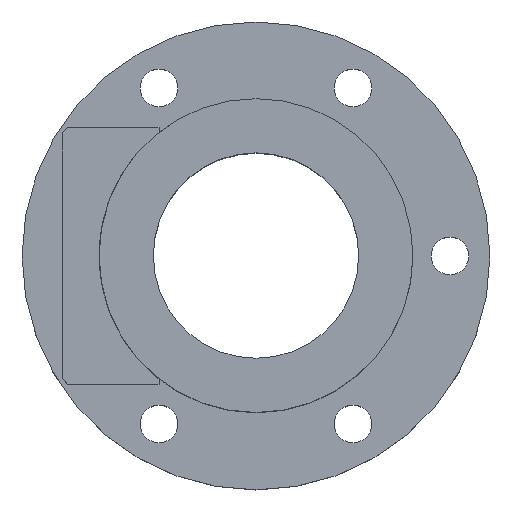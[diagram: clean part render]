
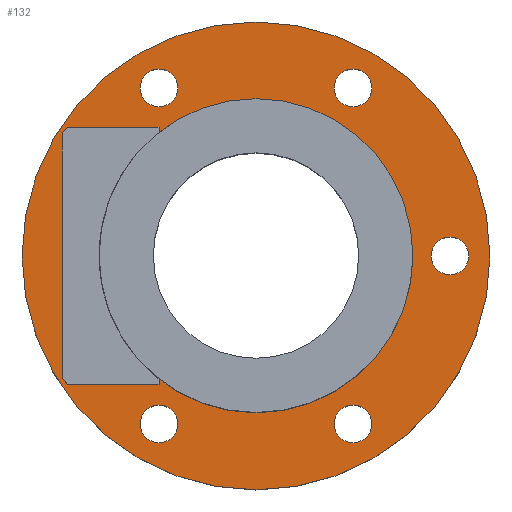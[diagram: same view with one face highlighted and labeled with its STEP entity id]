
A CAD part, top view. The second image highlights one B-rep face of the part: STEP entity #132.
In plain terms, the highlighted planar face has unit normal (0, 0, 1).
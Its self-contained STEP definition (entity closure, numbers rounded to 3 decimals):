
#97=PLANE('',#557);
#114=FACE_OUTER_BOUND('',#269,.T.);
#132=ADVANCED_FACE('',(#221,#222,#223,#114,#224,#225,#226),#97,.T.);
#221=FACE_BOUND('',#266,.T.);
#222=FACE_BOUND('',#267,.T.);
#223=FACE_BOUND('',#268,.T.);
#224=FACE_BOUND('',#270,.T.);
#225=FACE_BOUND('',#271,.T.);
#226=FACE_BOUND('',#272,.T.);
#266=EDGE_LOOP('',(#331));
#267=EDGE_LOOP('',(#332));
#268=EDGE_LOOP('',(#333));
#269=EDGE_LOOP('',(#334));
#270=EDGE_LOOP('',(#335));
#271=EDGE_LOOP('',(#336));
#272=EDGE_LOOP('',(#337));
#331=ORIENTED_EDGE('',*,*,#473,.F.);
#332=ORIENTED_EDGE('',*,*,#474,.F.);
#333=ORIENTED_EDGE('',*,*,#468,.F.);
#334=ORIENTED_EDGE('',*,*,#475,.T.);
#335=ORIENTED_EDGE('',*,*,#476,.F.);
#336=ORIENTED_EDGE('',*,*,#477,.F.);
#337=ORIENTED_EDGE('',*,*,#478,.F.);
#426=VERTEX_POINT('',#748);
#431=VERTEX_POINT('',#759);
#432=VERTEX_POINT('',#761);
#433=VERTEX_POINT('',#763);
#434=VERTEX_POINT('',#765);
#435=VERTEX_POINT('',#767);
#436=VERTEX_POINT('',#769);
#468=EDGE_CURVE('',#426,#426,#518,.T.);
#473=EDGE_CURVE('',#431,#431,#521,.T.);
#474=EDGE_CURVE('',#432,#432,#522,.T.);
#475=EDGE_CURVE('',#433,#433,#523,.T.);
#476=EDGE_CURVE('',#434,#434,#524,.T.);
#477=EDGE_CURVE('',#435,#435,#525,.T.);
#478=EDGE_CURVE('',#436,#436,#526,.T.);
#518=CIRCLE('',#547,27.5);
#521=CIRCLE('',#551,3.3);
#522=CIRCLE('',#552,3.3);
#523=CIRCLE('',#553,41.);
#524=CIRCLE('',#554,3.3);
#525=CIRCLE('',#555,3.3);
#526=CIRCLE('',#556,3.3);
#547=AXIS2_PLACEMENT_3D('',#747,#608,#609);
#551=AXIS2_PLACEMENT_3D('',#758,#618,#619);
#552=AXIS2_PLACEMENT_3D('',#760,#620,#621);
#553=AXIS2_PLACEMENT_3D('',#762,#622,#623);
#554=AXIS2_PLACEMENT_3D('',#764,#624,#625);
#555=AXIS2_PLACEMENT_3D('',#766,#626,#627);
#556=AXIS2_PLACEMENT_3D('',#768,#628,#629);
#557=AXIS2_PLACEMENT_3D('',#770,#630,#631);
#608=DIRECTION('',(0.,0.,1.));
#609=DIRECTION('',(1.,0.,0.));
#618=DIRECTION('',(0.,0.,1.));
#619=DIRECTION('',(-0.5,-0.866,0.));
#620=DIRECTION('',(0.,0.,1.));
#621=DIRECTION('',(0.5,0.866,0.));
#622=DIRECTION('',(0.,0.,1.));
#623=DIRECTION('',(1.,0.,0.));
#624=DIRECTION('',(0.,0.,1.));
#625=DIRECTION('',(1.,0.,0.));
#626=DIRECTION('',(0.,0.,1.));
#627=DIRECTION('',(-1.,0.,0.));
#628=DIRECTION('',(0.,0.,1.));
#629=DIRECTION('',(0.5,-0.866,0.));
#630=DIRECTION('',(0.,0.,1.));
#631=DIRECTION('',(1.,0.,0.));
#747=CARTESIAN_POINT('',(0.,0.,12.));
#748=CARTESIAN_POINT('',(27.5,0.,12.));
#758=CARTESIAN_POINT('',(17.,-29.445,12.));
#759=CARTESIAN_POINT('',(15.35,-32.303,12.));
#760=CARTESIAN_POINT('',(-17.,29.445,12.));
#761=CARTESIAN_POINT('',(-15.35,32.303,12.));
#762=CARTESIAN_POINT('',(0.,0.,12.));
#763=CARTESIAN_POINT('',(41.,0.,12.));
#764=CARTESIAN_POINT('',(17.,29.445,12.));
#765=CARTESIAN_POINT('',(20.3,29.445,12.));
#766=CARTESIAN_POINT('',(-17.,-29.445,12.));
#767=CARTESIAN_POINT('',(-20.3,-29.445,12.));
#768=CARTESIAN_POINT('',(34.,0.,12.));
#769=CARTESIAN_POINT('',(35.65,-2.858,12.));
#770=CARTESIAN_POINT('',(0.,0.,12.));
